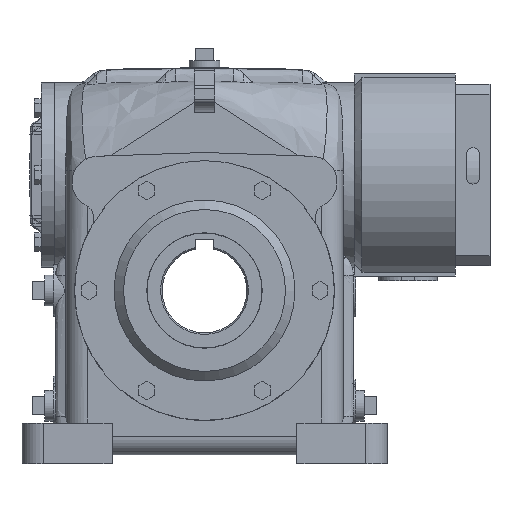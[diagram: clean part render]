
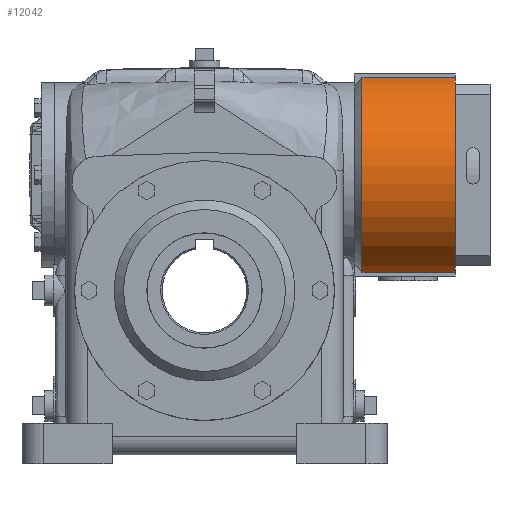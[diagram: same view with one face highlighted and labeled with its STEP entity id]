
A CAD part, front view. The second image highlights one B-rep face of the part: STEP entity #12042.
In plain terms, the highlighted cylindrical face has radius 88.9 mm (diameter 177.8 mm), a partial arc.
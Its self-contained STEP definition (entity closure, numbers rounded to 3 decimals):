
#798=CYLINDRICAL_SURFACE('',#14490,88.9);
#1576=LINE('',#30900,#2516);
#1577=LINE('',#30905,#2517);
#2516=VECTOR('',#16932,1000.);
#2517=VECTOR('',#16935,1000.);
#5559=ORIENTED_EDGE('',*,*,#7591,.F.);
#5560=ORIENTED_EDGE('',*,*,#7592,.F.);
#5561=ORIENTED_EDGE('',*,*,#7593,.T.);
#5562=ORIENTED_EDGE('',*,*,#7594,.T.);
#7591=EDGE_CURVE('',#8854,#8855,#1576,.F.);
#7592=EDGE_CURVE('',#8856,#8854,#9273,.T.);
#7593=EDGE_CURVE('',#8856,#8857,#1577,.F.);
#7594=EDGE_CURVE('',#8857,#8855,#9274,.T.);
#8854=VERTEX_POINT('',#30901);
#8855=VERTEX_POINT('',#30902);
#8856=VERTEX_POINT('',#30904);
#8857=VERTEX_POINT('',#30906);
#9273=CIRCLE('',#14491,88.9);
#9274=CIRCLE('',#14492,88.9);
#10020=EDGE_LOOP('',(#5559,#5560,#5561,#5562));
#10882=FACE_BOUND('',#10020,.T.);
#12042=ADVANCED_FACE('',(#10882),#798,.T.);
#14490=AXIS2_PLACEMENT_3D('',#30899,#16930,#16931);
#14491=AXIS2_PLACEMENT_3D('',#30903,#16933,#16934);
#14492=AXIS2_PLACEMENT_3D('',#30907,#16936,#16937);
#16930=DIRECTION('',(-1.,0.,0.));
#16931=DIRECTION('',(0.,0.,1.));
#16932=DIRECTION('',(-1.,0.,0.));
#16933=DIRECTION('',(-1.,0.,0.));
#16934=DIRECTION('',(0.,0.,1.));
#16935=DIRECTION('',(-1.,0.,0.));
#16936=DIRECTION('',(-1.,0.,0.));
#16937=DIRECTION('',(0.,0.,1.));
#30899=CARTESIAN_POINT('',(-60.008,0.,0.));
#30900=CARTESIAN_POINT('',(-60.008,-24.606,85.427));
#30901=CARTESIAN_POINT('',(6.765,-24.606,85.427));
#30902=CARTESIAN_POINT('',(89.01,-24.606,85.427));
#30903=CARTESIAN_POINT('',(6.765,0.,0.));
#30904=CARTESIAN_POINT('',(6.765,-24.606,-85.427));
#30905=CARTESIAN_POINT('',(-60.008,-24.606,-85.427));
#30906=CARTESIAN_POINT('',(89.01,-24.606,-85.427));
#30907=CARTESIAN_POINT('',(89.01,0.,0.));
